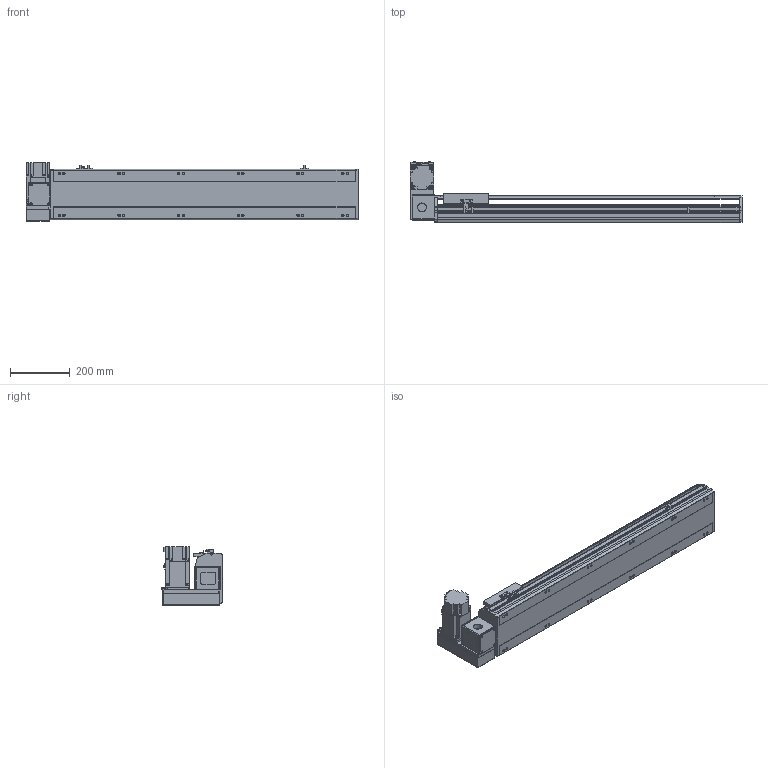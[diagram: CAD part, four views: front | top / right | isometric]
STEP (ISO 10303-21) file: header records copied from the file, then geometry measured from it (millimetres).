
FILE_DESCRIPTION( ( 'STEP AP214' ), '1' );
FILE_NAME( 'x:/temp/worker_4/temp/exporttempdir_2248_389_uzWng/format_0/PBS170-P40-S750-LU-T75-C1-N(0).stp', '2022-06-07T08:14:42', ( 'License CC BY-ND 4.0' ), ( 'CADENAS' ), ' ', 'PARTsolutions', ' ' );
FILE_SCHEMA( ( 'AUTOMOTIVE_DESIGN { 1 0 10303 214 1 1 1 1 }' ) );
Length unit declared in the file: millimetre
Products named in the file (7): PBS170-P40-S750-LU-T75-C1-N(0); _PBS170-S750()_body; _PBS170T-LU_motors; _T75-p1; _PBS170_sliser; _PBS170_plant; _PBS170_sensor
Assembly tree (8 placements, depth 2):
  PBS170-P40-S750-LU-T75-C1-N(0)
    _PBS170-S750()_body
    _PBS170T-LU_motors
    _T75-p1
    _PBS170_sliser
    _PBS170_plant
    _PBS170_sensor  x3
Bounding box: 1113 x 206 x 197.3 mm (x, y, z)
Volume: 9209679.8 mm3; surface area: 1225028 mm2
Topology: 8 solids, 8 shells, 1050 faces, 2795 edges, 1822 vertices
Faces by surface type: plane 675, cylinder 323, cone 42, sphere 8, torus 2
Full cylindrical faces by diameter (mm): 3.242 x4, 4 x2, 4.4 x4, 4.5 x6, 4.917 x4, 6 x9, 6.647 x20, 7 x2, 7.5 x4, 8 x8, 8.5 x12, 10 x4, 10.5 x12, 11 x2, 30 x2, 40 x1, 70 x1
Entity records: 38456 total; most frequent: CARTESIAN_POINT 5885, DIRECTION 5160, ORIENTED_EDGE 4908, EDGE_CURVE 2454, AXIS2_PLACEMENT_3D 1777, VERTEX_POINT 1682, LINE 1606, VECTOR 1606
